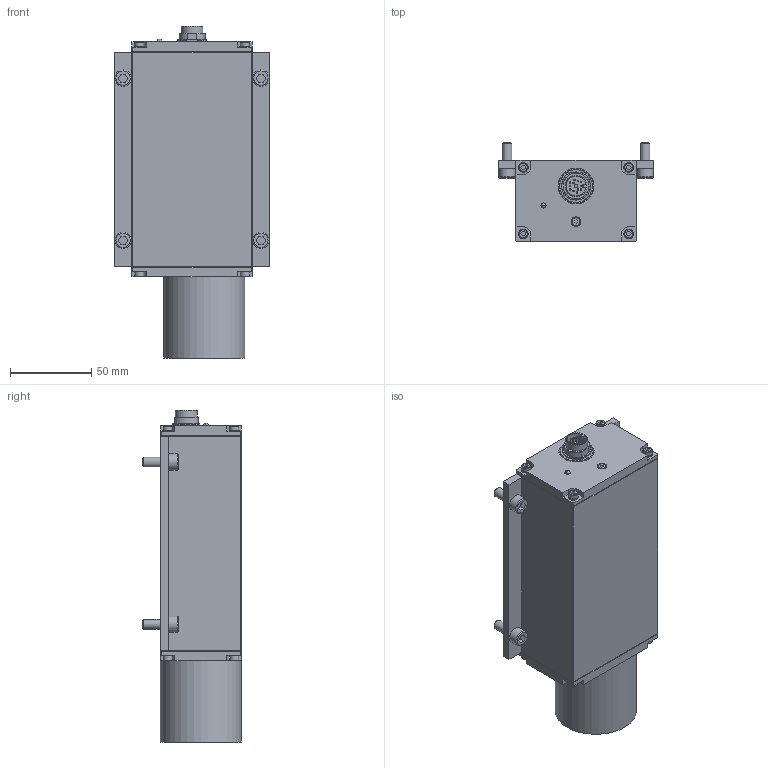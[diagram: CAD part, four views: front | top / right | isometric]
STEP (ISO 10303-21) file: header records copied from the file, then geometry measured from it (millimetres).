
FILE_DESCRIPTION((''),'2;1');
FILE_NAME('T:\Project\Acuity\Jenoptik\ldm40_b_sw0001.stp','2012-04-03T12:10:30',('msouthwood'),(''),'Autodesk Inventor 2010','Autodesk Inventor 2010','');
FILE_SCHEMA(('AUTOMOTIVE_DESIGN { 1 0 10303 214 1 1 1 1 }'));
Length unit declared in the file: millimetre
Products named in the file (1): 012840-103-26_ldm40_b_sw0001
Bounding box: 96 x 61 x 204.6 mm (x, y, z)
Surface area: 79873.8 mm2 (no closed solid volume)
Topology: 0 solids, 175 shells, 634 faces, 5913 edges, 5475 vertices
Faces by surface type: plane 383, cylinder 129, cone 81, torus 24, sphere 15, bspline 2
Full cylindrical faces by diameter (mm): 1 x12, 2 x1, 5.5 x8, 6 x12, 7 x2, 10 x4, 13.5 x1, 20 x1, 22 x1, 41 x29, 43 x8, 44 x1, 50 x1
Entity records: 67059 total; most frequent: CARTESIAN_POINT 27594, DIRECTION 6538, ORIENTED_EDGE 6516, EDGE_CURVE 5664, VERTEX_POINT 5421, VECTOR 2602, LINE 2602, AXIS2_PLACEMENT_3D 1968
